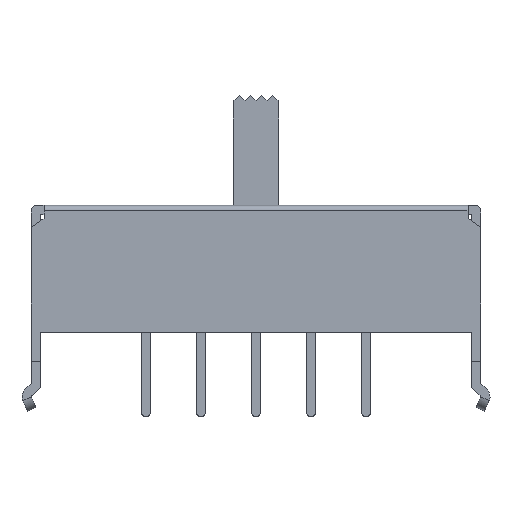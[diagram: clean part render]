
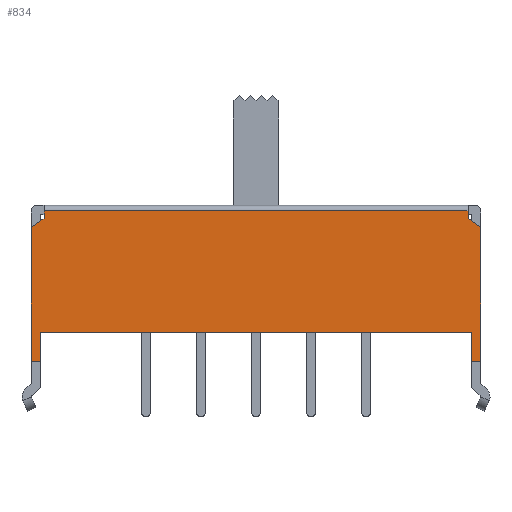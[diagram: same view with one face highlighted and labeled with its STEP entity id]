
A CAD part, top view. The second image highlights one B-rep face of the part: STEP entity #834.
In plain terms, the highlighted planar face has unit normal (0, 0, 1).
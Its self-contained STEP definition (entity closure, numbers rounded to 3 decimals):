
#286 = VERTEX_POINT ( 'NONE', #1805 ) ;
#291 = VERTEX_POINT ( 'NONE', #1793 ) ;
#297 = EDGE_CURVE ( 'NONE', #291, #286, #1969, .T. ) ;
#412 = VERTEX_POINT ( 'NONE', #4895 ) ;
#414 = EDGE_CURVE ( 'NONE', #291, #412, #4894, .T. ) ;
#661 = ORIENTED_EDGE ( 'NONE', *, *, #297, .F. ) ;
#662 = ORIENTED_EDGE ( 'NONE', *, *, #414, .T. ) ;
#665 = VERTEX_POINT ( 'NONE', #3477 ) ;
#672 = VERTEX_POINT ( 'NONE', #3470 ) ;
#818 = EDGE_CURVE ( 'NONE', #286, #819, #3761, .T. ) ;
#819 = VERTEX_POINT ( 'NONE', #3757 ) ;
#827 = ORIENTED_EDGE ( 'NONE', *, *, #828, .F. ) ;
#828 = EDGE_CURVE ( 'NONE', #829, #1052, #3772, .T. ) ;
#829 = VERTEX_POINT ( 'NONE', #3762 ) ;
#830 = ORIENTED_EDGE ( 'NONE', *, *, #831, .T. ) ;
#831 = EDGE_CURVE ( 'NONE', #829, #832, #3768, .T. ) ;
#832 = VERTEX_POINT ( 'NONE', #3764 ) ;
#834 = ADVANCED_FACE ( 'NONE', ( #3763 ), #3800, .T. ) ;
#835 = EDGE_LOOP ( 'NONE', ( #661, #662, #836, #838, #925, #827, #830, #923, #1008, #993, #901, #927 ) ) ;
#836 = ORIENTED_EDGE ( 'NONE', *, *, #837, .T. ) ;
#837 = EDGE_CURVE ( 'NONE', #412, #842, #3799, .T. ) ;
#838 = ORIENTED_EDGE ( 'NONE', *, *, #839, .F. ) ;
#839 = EDGE_CURVE ( 'NONE', #665, #842, #3788, .T. ) ;
#842 = VERTEX_POINT ( 'NONE', #4514 ) ;
#852 = EDGE_CURVE ( 'NONE', #672, #853, #4523, .T. ) ;
#853 = VERTEX_POINT ( 'NONE', #4537 ) ;
#901 = ORIENTED_EDGE ( 'NONE', *, *, #926, .F. ) ;
#902 = EDGE_CURVE ( 'NONE', #1052, #665, #4630, .T. ) ;
#923 = ORIENTED_EDGE ( 'NONE', *, *, #924, .F. ) ;
#924 = EDGE_CURVE ( 'NONE', #1007, #832, #4672, .T. ) ;
#925 = ORIENTED_EDGE ( 'NONE', *, *, #902, .F. ) ;
#926 = EDGE_CURVE ( 'NONE', #819, #672, #4664, .T. ) ;
#927 = ORIENTED_EDGE ( 'NONE', *, *, #818, .F. ) ;
#992 = EDGE_CURVE ( 'NONE', #853, #1007, #3274, .T. ) ;
#993 = ORIENTED_EDGE ( 'NONE', *, *, #852, .F. ) ;
#1007 = VERTEX_POINT ( 'NONE', #3254 ) ;
#1008 = ORIENTED_EDGE ( 'NONE', *, *, #992, .F. ) ;
#1052 = VERTEX_POINT ( 'NONE', #4998 ) ;
#1793 = CARTESIAN_POINT ( 'NONE',  ( 11.75, 1.6, 3.5 ) ) ;
#1805 = CARTESIAN_POINT ( 'NONE',  ( -11.75, 1.6, 3.5 ) ) ;
#1969 = LINE ( 'NONE', #2072, #2007 ) ;
#2007 = VECTOR ( 'NONE', #2067, 1000. ) ;
#2067 = DIRECTION ( 'NONE',  ( -1., 0., 0. ) ) ;
#2072 = CARTESIAN_POINT ( 'NONE',  ( 9.7, 1.6, 3.5 ) ) ;
#3254 = CARTESIAN_POINT ( 'NONE',  ( -11.55, 7.8, 3.5 ) ) ;
#3273 = CARTESIAN_POINT ( 'NONE',  ( -11.55, 7.8, 3.5 ) ) ;
#3274 = LINE ( 'NONE', #3273, #3286 ) ;
#3285 = DIRECTION ( 'NONE',  ( 0.814, 0.581, 0. ) ) ;
#3286 = VECTOR ( 'NONE', #3285, 1000. ) ;
#3470 = CARTESIAN_POINT ( 'NONE',  ( -12.25, 0., 3.5 ) ) ;
#3477 = CARTESIAN_POINT ( 'NONE',  ( 12.25, 7.3, 3.5 ) ) ;
#3755 = DIRECTION ( 'NONE',  ( 0., -1., 0. ) ) ;
#3756 = VECTOR ( 'NONE', #3755, 1000. ) ;
#3757 = CARTESIAN_POINT ( 'NONE',  ( -11.75, 0., 3.5 ) ) ;
#3758 = DIRECTION ( 'NONE',  ( 0., -1., 0. ) ) ;
#3759 = VECTOR ( 'NONE', #3758, 1000. ) ;
#3760 = CARTESIAN_POINT ( 'NONE',  ( -11.75, 4.7, 3.5 ) ) ;
#3761 = LINE ( 'NONE', #3760, #3759 ) ;
#3762 = CARTESIAN_POINT ( 'NONE',  ( 11.55, 8.2, 3.5 ) ) ;
#3763 = FACE_OUTER_BOUND ( 'NONE', #835, .T. ) ;
#3764 = CARTESIAN_POINT ( 'NONE',  ( -11.55, 8.2, 3.5 ) ) ;
#3765 = DIRECTION ( 'NONE',  ( -1., 0., 0. ) ) ;
#3766 = VECTOR ( 'NONE', #3765, 1000. ) ;
#3767 = CARTESIAN_POINT ( 'NONE',  ( -12.25, 8.2, 3.5 ) ) ;
#3768 = LINE ( 'NONE', #3767, #3766 ) ;
#3769 = DIRECTION ( 'NONE',  ( 0., -1., 0. ) ) ;
#3770 = VECTOR ( 'NONE', #3769, 1000. ) ;
#3771 = CARTESIAN_POINT ( 'NONE',  ( 11.55, 8.5, 3.5 ) ) ;
#3772 = LINE ( 'NONE', #3771, #3770 ) ;
#3787 = CARTESIAN_POINT ( 'NONE',  ( 12.25, 7.3, 3.5 ) ) ;
#3788 = LINE ( 'NONE', #3787, #3756 ) ;
#3789 = DIRECTION ( 'NONE',  ( 1., 0., 0. ) ) ;
#3790 = VECTOR ( 'NONE', #3789, 1000. ) ;
#3797 = CARTESIAN_POINT ( 'NONE',  ( -12.25, 8., 3.5 ) ) ;
#3798 = AXIS2_PLACEMENT_3D ( 'NONE', #3797, #3803, #3802 ) ;
#3799 = LINE ( 'NONE', #3801, #3790 ) ;
#3800 = PLANE ( 'NONE',  #3798 ) ;
#3801 = CARTESIAN_POINT ( 'NONE',  ( 11.75, 0., 3.5 ) ) ;
#3802 = DIRECTION ( 'NONE',  ( 1., 0., 0. ) ) ;
#3803 = DIRECTION ( 'NONE',  ( 0., 0., 1. ) ) ;
#4514 = CARTESIAN_POINT ( 'NONE',  ( 12.25, 0., 3.5 ) ) ;
#4521 = VECTOR ( 'NONE', #4538, 1000. ) ;
#4522 = CARTESIAN_POINT ( 'NONE',  ( -12.25, 7.3, 3.5 ) ) ;
#4523 = LINE ( 'NONE', #4522, #4521 ) ;
#4537 = CARTESIAN_POINT ( 'NONE',  ( -12.25, 7.3, 3.5 ) ) ;
#4538 = DIRECTION ( 'NONE',  ( 0., 1., 0. ) ) ;
#4627 = DIRECTION ( 'NONE',  ( 0.814, -0.581, 0. ) ) ;
#4628 = VECTOR ( 'NONE', #4627, 1000. ) ;
#4629 = CARTESIAN_POINT ( 'NONE',  ( 11.55, 7.8, 3.5 ) ) ;
#4630 = LINE ( 'NONE', #4629, #4628 ) ;
#4663 = CARTESIAN_POINT ( 'NONE',  ( -11.75, 0., 3.5 ) ) ;
#4664 = LINE ( 'NONE', #4663, #4703 ) ;
#4665 = DIRECTION ( 'NONE',  ( 0., 1., 0. ) ) ;
#4666 = VECTOR ( 'NONE', #4665, 1000. ) ;
#4667 = CARTESIAN_POINT ( 'NONE',  ( -11.55, 8.5, 3.5 ) ) ;
#4672 = LINE ( 'NONE', #4667, #4666 ) ;
#4702 = DIRECTION ( 'NONE',  ( -1., 0., 0. ) ) ;
#4703 = VECTOR ( 'NONE', #4702, 1000. ) ;
#4892 = VECTOR ( 'NONE', #4909, 1000. ) ;
#4893 = CARTESIAN_POINT ( 'NONE',  ( 11.75, 4.7, 3.5 ) ) ;
#4894 = LINE ( 'NONE', #4893, #4892 ) ;
#4895 = CARTESIAN_POINT ( 'NONE',  ( 11.75, 0., 3.5 ) ) ;
#4909 = DIRECTION ( 'NONE',  ( 0., -1., 0. ) ) ;
#4998 = CARTESIAN_POINT ( 'NONE',  ( 11.55, 7.8, 3.5 ) ) ;
